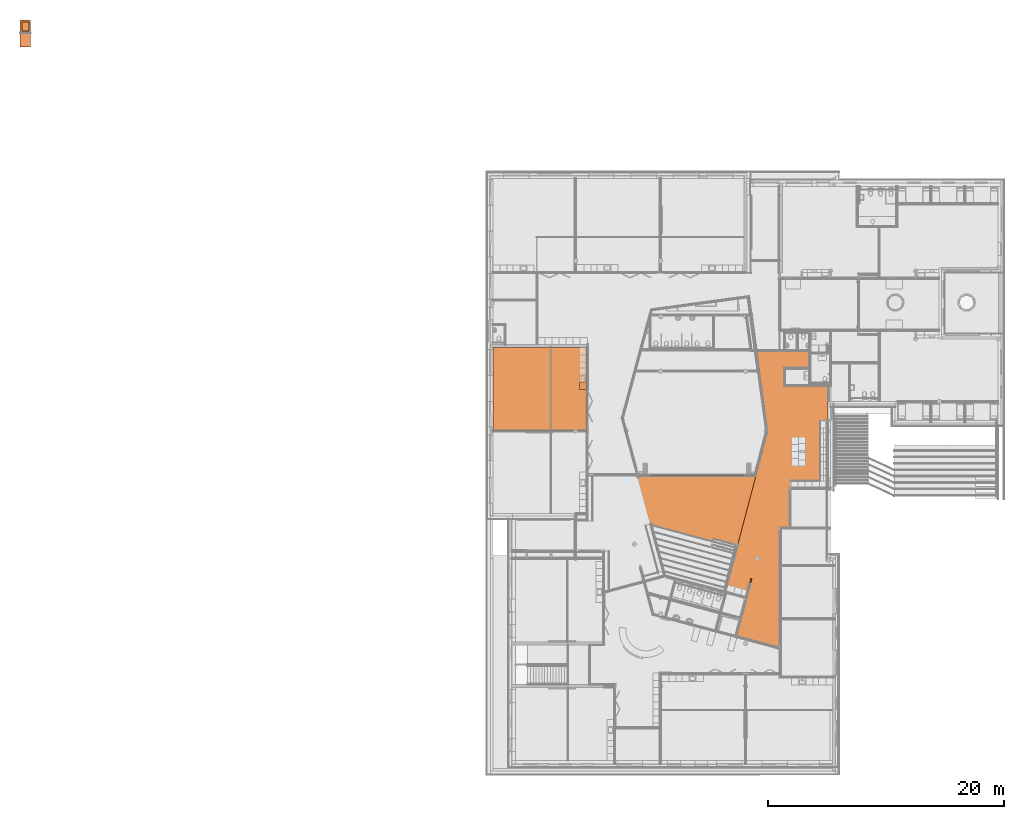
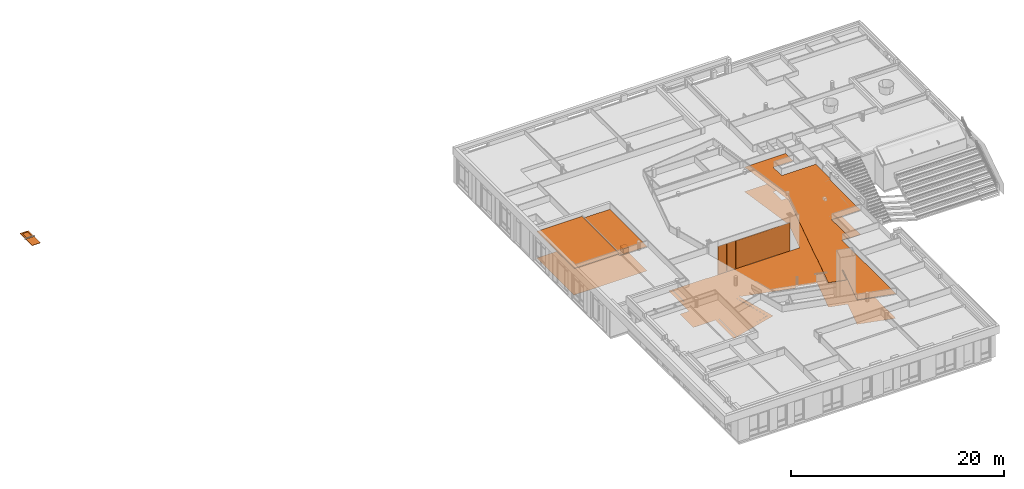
# One storey, part 126 of 167: 10 proxies, 1 opening.
"""IFC2X3 building model written with IfcOpenShell, lengths in millimetres."""

from ifc_helpers import new_model, entity, si_unit, converted_unit, derived_unit, money_unit, direction, frame, origin_with_axes, place, context, subcontext, project, spatial, open_shell, faceted_brep, surface_model, material, type_object, element, save


model = new_model("IFC2X3")

# Units and contexts
model_context = context("Model", 3, precision=0.01, world=origin_with_axes(), true_north=direction((0.0, 1.0)))
plan_context = context("Plan", 3, precision=0.01, world=origin_with_axes(), true_north=direction((0.0, 1.0)))
body_context = subcontext(model_context, "Body", "Model", "MODEL_VIEW")
ifc_project = project(units=[si_unit("LENGTHUNIT", "METRE", prefix="MILLI"), si_unit("AREAUNIT", "SQUARE_METRE"), si_unit("VOLUMEUNIT", "CUBIC_METRE"), converted_unit("PLANEANGLEUNIT", "DEGREE", entity("IfcPlaneAngleMeasure", 0.0174532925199), si_unit("PLANEANGLEUNIT", "RADIAN"), dimensions=[0, 0, 0, 0, 0, 0, 0]), si_unit("SOLIDANGLEUNIT", "STERADIAN"), money_unit("EUR"), converted_unit("TIMEUNIT", "Year", entity("IfcTimeMeasure", 31556926.0), si_unit("TIMEUNIT", "SECOND"), dimensions=[0, 0, 1, 0, 0, 0, 0]), si_unit("MASSUNIT", "GRAM", prefix="KILO"), si_unit("THERMODYNAMICTEMPERATUREUNIT", "DEGREE_CELSIUS"), si_unit("LUMINOUSINTENSITYUNIT", "LUMEN"), si_unit("ENERGYUNIT", "JOULE", prefix="MEGA"), derived_unit("THERMALCONDUCTANCEUNIT", [(si_unit("POWERUNIT", "WATT"), 1), (si_unit("LENGTHUNIT", "METRE"), -1), (si_unit("THERMODYNAMICTEMPERATUREUNIT", "KELVIN"), -1)]), derived_unit("SPECIFICHEATCAPACITYUNIT", [(si_unit("ENERGYUNIT", "JOULE"), 1), (si_unit("MASSUNIT", "GRAM", prefix="KILO"), -1), (si_unit("THERMODYNAMICTEMPERATUREUNIT", "KELVIN"), -1)]), derived_unit("MASSDENSITYUNIT", [(si_unit("MASSUNIT", "GRAM", prefix="KILO"), 1), (si_unit("VOLUMEUNIT", "CUBIC_METRE"), -1)])], contexts=[model_context, plan_context])

# Site, building, storey
site_placement = place(None, origin_with_axes())
site = spatial("IfcSite", under=ifc_project, at=site_placement, Name="Site", CompositionType="ELEMENT")
building_placement = place(site_placement, origin_with_axes())
building = spatial("IfcBuilding", under=site, at=building_placement, Name="Naam gebouw", CompositionType="ELEMENT")
storey_placement = place(building_placement, origin_with_axes())
storey = spatial("IfcBuildingStorey", under=building, at=storey_placement, Name="Begane grond", CompositionType="ELEMENT", Elevation=0.0)

# Proxies
building_element_proxy_type_1 = type_object("IfcBuildingElementProxyType", Name="Kast basis 1D 24", PredefinedType="NOTDEFINED")
proxy_1_placement = place(storey_placement, frame((7550.0, 32305.0, 0.0), z_axis=(0.0, 0.0, 1.0), x_axis=(0.0, -1.0, 0.0)))
element("IfcBuildingElementProxy", 1, at=proxy_1_placement, inside=storey, type_object=building_element_proxy_type_1, Name="__Object-x", context=body_context, shape_type="SurfaceModel", body=[
    faceted_brep([(-20.0, 20.0, 0.0), (-20.0, 20.0, 90.0), (-620.0, 20.0, 90.0), (-620.0, 20.0, 0.0), (-20.0, 600.0, 0.0), (-20.0, 600.0, 90.0), (-620.0, 600.0, 90.0), (-620.0, 600.0, 0.0)], [[[0, 1, 2, 3]], [[4, 5, 1, 0]], [[1, 5, 6, 2]], [[3, 2, 6, 7]], [[0, 3, 7, 4]], [[7, 6, 5, 4]]]),
    faceted_brep([(-20.0, 20.0, 580.0), (-20.0, 20.0, 600.0), (-40.0, 20.0, 600.0), (-40.0, 20.0, 580.0), (-20.0, 600.0, 580.0), (-20.0, 600.0, 600.0), (-40.0, 600.0, 600.0), (-600.0, 600.0, 600.0), (-620.0, 600.0, 600.0), (-620.0, 20.0, 600.0), (-600.0, 20.0, 600.0), (-600.0, 20.0, 580.0), (-620.0, 20.0, 580.0), (-620.0, 600.0, 580.0), (-600.0, 600.0, 580.0), (-40.0, 600.0, 580.0)], [[[0, 1, 2, 3]], [[4, 5, 1, 0]], [[1, 5, 6, 7, 8, 9, 10, 2]], [[3, 2, 10, 11]], [[0, 3, 11, 12, 13, 14, 15, 4]], [[15, 6, 5, 4]], [[14, 7, 6, 15]], [[13, 8, 7, 14]], [[12, 9, 8, 13]], [[11, 10, 9, 12]]]),
    faceted_brep([(-20.0, 20.0, 90.0), (-20.0, 20.0, 110.0), (-40.0, 20.0, 110.0), (-40.0, 20.0, 90.0), (-20.0, 600.0, 90.0), (-20.0, 600.0, 110.0), (-40.0, 600.0, 110.0), (-600.0, 600.0, 110.0), (-620.0, 600.0, 110.0), (-620.0, 20.0, 110.0), (-600.0, 20.0, 110.0), (-600.0, 20.0, 90.0), (-620.0, 20.0, 90.0), (-620.0, 600.0, 90.0), (-600.0, 600.0, 90.0), (-40.0, 600.0, 90.0)], [[[0, 1, 2, 3]], [[4, 5, 1, 0]], [[1, 5, 6, 7, 8, 9, 10, 2]], [[3, 2, 10, 11]], [[0, 3, 11, 12, 13, 14, 15, 4]], [[15, 6, 5, 4]], [[14, 7, 6, 15]], [[13, 8, 7, 14]], [[12, 9, 8, 13]], [[11, 10, 9, 12]]]),
    faceted_brep([(-20.0, 20.0, 110.0), (-20.0, 20.0, 580.0), (-40.0, 20.0, 580.0), (-40.0, 20.0, 110.0), (-20.0, 600.0, 110.0), (-20.0, 600.0, 580.0), (-620.0, 600.0, 580.0), (-620.0, 20.0, 580.0), (-600.0, 20.0, 580.0), (-600.0, 580.0, 580.0), (-40.0, 580.0, 580.0), (-40.0, 580.0, 110.0), (-600.0, 580.0, 110.0), (-600.0, 20.0, 110.0), (-620.0, 20.0, 110.0), (-620.0, 600.0, 110.0)], [[[0, 1, 2, 3]], [[4, 5, 1, 0]], [[1, 5, 6, 7, 8, 9, 10, 2]], [[3, 2, 10, 11]], [[0, 3, 11, 12, 13, 14, 15, 4]], [[15, 6, 5, 4]], [[14, 7, 6, 15]], [[13, 8, 7, 14]], [[12, 9, 8, 13]], [[11, 10, 9, 12]]]),
    faceted_brep([(-600.0, 20.0, 325.0), (-600.0, 20.0, 345.0), (-600.0, 580.0, 345.0), (-600.0, 580.0, 325.0), (-40.0, 20.0, 325.0), (-40.0, 20.0, 345.0), (-40.0, 580.0, 345.0), (-40.0, 580.0, 325.0)], [[[0, 1, 2, 3]], [[4, 5, 1, 0]], [[1, 5, 6, 2]], [[3, 2, 6, 7]], [[0, 3, 7, 4]], [[7, 6, 5, 4]]]),
    faceted_brep([(0.0, 0.0, 600.0), (0.0, 0.0, 620.0), (-620.0, 0.0, 620.0), (-620.0, 0.0, 600.0), (0.0, 600.0, 600.0), (0.0, 600.0, 620.0), (-620.0, 600.0, 620.0), (-620.0, 600.0, 600.0)], [[[0, 1, 2, 3]], [[4, 5, 1, 0]], [[1, 5, 6, 2]], [[3, 2, 6, 7]], [[0, 3, 7, 4]], [[7, 6, 5, 4]]]),
    faceted_brep([(-21.5, 20.0, 91.5), (-21.5, 0.0, 91.5), (-618.5, 0.0, 91.5), (-618.5, 20.0, 91.5), (-21.5, 20.0, 598.5), (-21.5, 0.0, 598.5), (-618.5, 0.0, 598.5), (-618.5, 20.0, 598.5)], [[[0, 1, 2, 3]], [[4, 5, 1, 0]], [[1, 5, 6, 2]], [[3, 2, 6, 7]], [[0, 3, 7, 4]], [[7, 6, 5, 4]]]),
    faceted_brep([(-318.5, -28.1480502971, 538.728361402), (-318.5, -27.0, 538.5), (-318.5, -25.8519497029, 538.728361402), (-318.5, -24.8786796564, 539.378679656), (-318.5, -24.2283614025, 540.351949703), (-318.5, -24.0, 541.5), (-318.5, -24.2283614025, 542.648050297), (-318.5, -24.8786796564, 543.621320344), (-318.5, -25.8519497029, 544.271638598), (-318.5, -27.0, 544.5), (-318.5, -28.1480502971, 544.271638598), (-318.5, -29.1213203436, 543.621320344), (-318.5, -29.7716385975, 542.648050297), (-318.5, -30.0, 541.5), (-318.5, -29.7716385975, 540.351949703), (-318.5, -29.1213203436, 539.378679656), (-568.5, -28.1480502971, 538.728361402), (-568.5, -27.0, 538.5), (-568.5, -25.8519497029, 538.728361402), (-568.5, -24.8786796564, 539.378679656), (-568.5, -24.2283614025, 540.351949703), (-568.5, -24.0, 541.5), (-568.5, -24.2283614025, 542.648050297), (-568.5, -24.8786796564, 543.621320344), (-568.5, -25.8519497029, 544.271638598), (-568.5, -27.0, 544.5), (-568.5, -28.1480502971, 544.271638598), (-568.5, -29.1213203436, 543.621320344), (-568.5, -29.7716385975, 542.648050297), (-568.5, -30.0, 541.5), (-568.5, -29.7716385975, 540.351949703), (-568.5, -29.1213203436, 539.378679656)], [[[0, 1, 2, 3, 4, 5, 6, 7, 8, 9, 10, 11, 12, 13, 14, 15]], [[0, 16, 17, 1]], [[1, 17, 18, 2]], [[2, 18, 19, 3]], [[3, 19, 20, 4]], [[4, 20, 21, 5]], [[5, 21, 22, 6]], [[6, 22, 23, 7]], [[7, 23, 24, 8]], [[8, 24, 25, 9]], [[9, 25, 26, 10]], [[10, 26, 27, 11]], [[11, 27, 28, 12]], [[12, 28, 29, 13]], [[13, 29, 30, 14]], [[14, 30, 31, 15]], [[15, 31, 16, 0]], [[16, 31, 30, 29, 28, 27, 26, 25, 24, 23, 22, 21, 20, 19, 18, 17]]]),
    surface_model("IfcShellBasedSurfaceModel", [(-341.190301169, -24.156637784, 540.543291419), (-341.190301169, 0.0, 540.543291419), (-341.0, 0.0, 541.5), (-341.0, -24.0, 541.5), (-341.732233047, -24.5761600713, 539.732233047), (-341.732233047, 0.0, 539.732233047), (-342.543291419, 0.0, 539.190301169), (-343.5, 0.0, 539.0), (-344.456708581, 0.0, 539.190301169), (-345.267766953, 0.0, 539.732233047), (-345.809698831, 0.0, 540.543291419), (-346.0, 0.0, 541.5), (-345.809698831, 0.0, 542.456708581), (-345.267766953, 0.0, 543.267766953), (-344.456708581, 0.0, 543.809698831), (-343.5, 0.0, 544.0), (-342.543291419, 0.0, 543.809698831), (-341.732233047, 0.0, 543.267766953), (-341.190301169, 0.0, 542.456708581), (-341.190301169, -24.156637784, 542.456708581), (-342.543291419, -25.0855049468, 539.190301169), (-343.5, -25.3416876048, 539.0), (-344.456708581, -25.0855049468, 539.190301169), (-345.267766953, -24.5761600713, 539.732233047), (-345.809698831, -24.156637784, 540.543291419), (-346.0, -24.0, 541.5), (-345.809698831, -24.156637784, 542.456708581), (-345.267766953, -24.5761600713, 543.267766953), (-344.456708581, -25.0855049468, 543.809698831), (-343.5, -25.3416876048, 544.0), (-342.543291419, -25.0855049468, 543.809698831), (-341.732233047, -24.5761600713, 543.267766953)], [open_shell([[[0, 1, 2, 3]], [[4, 5, 1, 0]], [[1, 5, 6, 7, 8, 9, 10, 11, 12, 13, 14, 15, 16, 17, 18, 2]], [[3, 2, 18, 19]], [[20, 6, 5, 4]], [[21, 7, 6, 20]], [[22, 8, 7, 21]], [[23, 9, 8, 22]], [[24, 10, 9, 23]], [[25, 11, 10, 24]], [[26, 12, 11, 25]], [[27, 13, 12, 26]], [[28, 14, 13, 27]], [[29, 15, 14, 28]], [[30, 16, 15, 29]], [[31, 17, 16, 30]], [[19, 18, 17, 31]]])]),
    surface_model("IfcShellBasedSurfaceModel", [(-541.190301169, -24.156637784, 540.543291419), (-541.190301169, 0.0, 540.543291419), (-541.0, 0.0, 541.5), (-541.0, -24.0, 541.5), (-541.732233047, -24.5761600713, 539.732233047), (-541.732233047, 0.0, 539.732233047), (-542.543291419, 0.0, 539.190301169), (-543.5, 0.0, 539.0), (-544.456708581, 0.0, 539.190301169), (-545.267766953, 0.0, 539.732233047), (-545.809698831, 0.0, 540.543291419), (-546.0, 0.0, 541.5), (-545.809698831, 0.0, 542.456708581), (-545.267766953, 0.0, 543.267766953), (-544.456708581, 0.0, 543.809698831), (-543.5, 0.0, 544.0), (-542.543291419, 0.0, 543.809698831), (-541.732233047, 0.0, 543.267766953), (-541.190301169, 0.0, 542.456708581), (-541.190301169, -24.156637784, 542.456708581), (-542.543291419, -25.0855049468, 539.190301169), (-543.5, -25.3416876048, 539.0), (-544.456708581, -25.0855049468, 539.190301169), (-545.267766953, -24.5761600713, 539.732233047), (-545.809698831, -24.156637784, 540.543291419), (-546.0, -24.0, 541.5), (-545.809698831, -24.156637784, 542.456708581), (-545.267766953, -24.5761600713, 543.267766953), (-544.456708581, -25.0855049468, 543.809698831), (-543.5, -25.3416876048, 544.0), (-542.543291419, -25.0855049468, 543.809698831), (-541.732233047, -24.5761600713, 543.267766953)], [open_shell([[[0, 1, 2, 3]], [[4, 5, 1, 0]], [[1, 5, 6, 7, 8, 9, 10, 11, 12, 13, 14, 15, 16, 17, 18, 2]], [[3, 2, 18, 19]], [[20, 6, 5, 4]], [[21, 7, 6, 20]], [[22, 8, 7, 21]], [[23, 9, 8, 22]], [[24, 10, 9, 23]], [[25, 11, 10, 24]], [[26, 12, 11, 25]], [[27, 13, 12, 26]], [[28, 14, 13, 27]], [[29, 15, 14, 28]], [[30, 16, 15, 29]], [[31, 17, 16, 30]], [[19, 18, 17, 31]]])]),
    faceted_brep([(-20.0, 598.5, 91.5), (0.0, 598.5, 91.5), (0.0, 21.5, 91.5), (-20.0, 21.5, 91.5), (-20.0, 598.5, 598.5), (0.0, 598.5, 598.5), (0.0, 21.5, 598.5), (-20.0, 21.5, 598.5)], [[[0, 1, 2, 3]], [[4, 5, 1, 0]], [[1, 5, 6, 2]], [[3, 2, 6, 7]], [[0, 3, 7, 4]], [[7, 6, 5, 4]]]),
])
ifc_material_1 = material(Name="ALG - BINNENAFWERKING")
building_element_proxy_type_2 = type_object("IfcBuildingElementProxyType", Name="ALG - BINNENAFWERKING 10", PredefinedType="NOTDEFINED")
proxy_2_placement = place(storey_placement, frame((3949.99987958, 35875.0, 3050.0), z_axis=(0.0, 0.0, 1.0), x_axis=(1.0, 0.0, 0.0)))
element("IfcBuildingElementProxy", 2, at=proxy_2_placement, inside=storey, type_object=building_element_proxy_type_2, material=ifc_material_1, Name="23__Vloer-x", context=body_context, shape_type="Brep", body=[
    faceted_brep([(-3735.99987958, 0.0, 10.0), (-3735.99987958, 0.0, 0.0), (-3735.99987958, -7024.99994868, 0.0), (-3735.99987958, -7024.99994868, 10.0), (1175.00024697, 0.0, 10.0), (1175.00024697, 0.0, 0.0), (1175.00024697, -7024.99994868, 0.0), (1175.00024697, -7024.99994868, 10.0)], [[[0, 1, 2, 3]], [[4, 5, 1, 0]], [[1, 5, 6, 2]], [[3, 2, 6, 7]], [[4, 0, 3, 7]], [[7, 6, 5, 4]]]),
])
proxy_3_placement = place(storey_placement, frame((5125.0, 35875.0, 2800.0), z_axis=(0.0, 0.0, 1.0), x_axis=(1.0, 0.0, 0.0)))
element("IfcBuildingElementProxy", 3, at=proxy_3_placement, inside=storey, type_object=building_element_proxy_type_2, material=ifc_material_1, Name="23__Vloer-x", context=body_context, shape_type="Brep", body=[
    faceted_brep([(0.0, 0.0, 10.0), (0.0, 0.0, 0.0), (0.0, -7025.0, 0.0), (0.0, -7025.0, 10.0), (3025.0, 0.0, 10.0), (3025.0, 0.0, 0.0), (3025.0, -7025.0, 0.0), (3025.0, -7025.0, 10.0)], [[[0, 1, 2, 3]], [[4, 5, 1, 0]], [[2, 1, 5, 6]], [[3, 2, 6, 7]], [[4, 0, 3, 7]], [[7, 6, 5, 4]]]),
])
proxy_4_placement = place(storey_placement, frame((23462.5635494, 28742.8363198, 2800.0), z_axis=(0.0, 0.0, 1.0), x_axis=(1.0, 0.0, 0.0)))
element("IfcBuildingElementProxy", 4, at=proxy_4_placement, inside=storey, type_object=building_element_proxy_type_2, material=ifc_material_1, Name="23__Vloer-x", context=body_context, shape_type="Brep", body=[
    faceted_brep([(5123.43645062, 732.163899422, 0.0), (5123.43645339, 886.733454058, 0.0), (5123.4364534, 886.733454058, 10.0), (5123.43645062, 732.163899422, 10.0), (5112.43645062, 732.163899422, 0.0), (5112.43645062, 886.733454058, 0.0), (5112.43645062, 886.733454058, 10.0), (5112.43645062, 732.163899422, 10.0)], [[[0, 1, 2, 3]], [[4, 5, 1, 0]], [[5, 6, 2, 1]], [[3, 2, 6, 7]], [[3, 7, 4, 0]], [[7, 6, 5, 4]]]),
    faceted_brep([(5123.43645345, 986.733454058, 10.0), (5123.43645062, 2557.16345406, 10.0), (5123.43645062, 3843.51654649, 10.0), (1412.43651779, 3843.51654649, 10.0), (1412.43651779, 5393.51654193, 10.0), (3537.43646385, 5393.51654193, 10.0), (3537.43646385, 6793.51682266, 10.0), (-911.85473767, 6793.51677353, 10.0), (-691.940329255, 5169.79571058, 10.0), (-703.301805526, 5168.25692883, 10.0), (0.0, 0.0, 10.0), (-2519.65742913, -9539.00468559, 10.0), (-2489.43849134, -9547.10182556, 10.0), (-3562.67765505, -13552.4849132, 10.0), (-1846.43747417, -14016.0200186, 10.0), (-1420.23849804, -12425.4237855, 10.0), (-1323.64591541, -12451.30569, 10.0), (-1749.89650966, -14042.0945311, 10.0), (-1746.43039059, -14043.0306867, 10.0), (-2215.90407638, -15781.2584802, 10.0), (-2630.00848064, -17326.7171566, 10.0), (1037.43645062, -18309.4060642, 10.0), (1037.43645062, -8142.83631976, 10.0), (1871.87876454, -8142.83631976, 10.0), (1871.87876454, -4763.60403162, 10.0), (5012.43645062, -4763.60403162, 10.0), (5012.43645062, 732.163899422, 10.0), (5012.43645062, 986.733454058, 10.0), (5024.93645062, 986.733454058, 10.0), (5123.43645344, 986.733454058, 0.0), (5123.43645062, 2557.16345406, 0.0), (5123.43645062, 3843.51654649, 0.0), (1412.43651779, 3843.51654649, 0.0), (1412.43651779, 5393.51654193, 0.0), (3537.43646385, 5393.51654193, 0.0), (3537.43646385, 6793.51682266, 0.0), (-911.85473767, 6793.51677353, 0.0), (-691.940329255, 5169.79571058, 0.0), (-703.301805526, 5168.25692883, 0.0), (0.0, 0.0, 0.0), (-2519.65742913, -9539.00468559, 0.0), (-2489.43849134, -9547.10182556, 0.0), (-3562.67765505, -13552.4849132, 0.0), (-1846.43747417, -14016.0200186, 0.0), (-1420.23849804, -12425.4237855, 0.0), (-1323.64591541, -12451.30569, 0.0), (-1749.89650966, -14042.0945311, 0.0), (-1746.43039059, -14043.0306867, 0.0), (-2215.90407638, -15781.2584802, 0.0), (-2630.00848064, -17326.7171566, 0.0), (1037.43645062, -18309.4060642, 0.0), (1037.43645062, -8142.83631976, 0.0), (1871.87876454, -8142.83631976, 0.0), (1871.87876454, -4763.60403162, 0.0), (5012.43645062, -4763.60403162, 0.0), (5012.43645062, 732.163899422, 0.0), (5012.43645062, 986.733454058, 0.0), (5024.93645062, 986.733454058, 0.0)], [[[0, 1, 2, 3, 4, 5, 6, 7, 8, 9, 10, 11, 12, 13, 14, 15, 16, 17, 18, 19, 20, 21, 22, 23, 24, 25, 26, 27, 28]], [[29, 30, 1, 0]], [[30, 31, 2, 1]], [[3, 2, 31, 32]], [[4, 3, 32, 33]], [[5, 4, 33, 34]], [[6, 5, 34, 35]], [[35, 36, 7, 6]], [[37, 8, 7, 36]], [[38, 9, 8, 37]], [[10, 9, 38, 39]], [[39, 40, 11, 10]], [[40, 41, 12, 11]], [[42, 13, 12, 41]], [[42, 43, 14, 13]], [[44, 15, 14, 43]], [[45, 16, 15, 44]], [[46, 17, 16, 45]], [[18, 17, 46, 47]], [[19, 18, 47, 48]], [[20, 19, 48, 49]], [[21, 20, 49, 50]], [[22, 21, 50, 51]], [[23, 22, 51, 52]], [[24, 23, 52, 53]], [[25, 24, 53, 54]], [[54, 55, 26, 25]], [[56, 27, 26, 55]], [[56, 57, 28, 27]], [[57, 29, 0, 28]], [[32, 31, 30, 29, 57, 56, 55, 54, 53, 52, 51, 50, 49, 48, 47, 46, 45, 44, 43, 42, 41, 40, 39, 38, 37, 36, 35, 34, 33]]]),
])
ifc_material_2 = material(Name="Kunststof - massief")
building_element_proxy_type_3 = type_object("IfcBuildingElementProxyType", Name="Vouwwand 24", PredefinedType="NOTDEFINED")
proxy_5_placement = place(storey_placement, frame((13564.462989, 25025.0, 2.0), z_axis=(0.0, 0.0, 1.0), x_axis=(1.0, 0.0, 0.0)))
element("IfcBuildingElementProxy", 5, at=proxy_5_placement, inside=storey, type_object=building_element_proxy_type_3, material=ifc_material_2, Name="__object-x", context=body_context, shape_type="Brep", body=[
    faceted_brep([(7839.67482976, -30.0, 3200.0), (0.0, -30.0, 3200.0), (0.0, 30.0, 3200.0), (7839.67482976, 30.0, 3200.0), (7839.67482976, -30.0, 3230.0), (0.0, -30.0, 3230.0), (0.0, 30.0, 3230.0), (7839.67482976, 30.0, 3230.0)], [[[0, 1, 2, 3]], [[1, 0, 4, 5]], [[2, 1, 5, 6]], [[3, 2, 6, 7]], [[0, 3, 7, 4]], [[5, 4, 7, 6]]]),
    faceted_brep([(969.95935372, -40.0, 0.0), (0.0, -40.0, 0.0), (0.0, 40.0, 0.0), (969.95935372, 40.0, 0.0), (969.95935372, -40.0, 3200.0), (0.0, -40.0, 3200.0), (0.0, 40.0, 3200.0), (969.95935372, 40.0, 3200.0)], [[[0, 1, 2, 3]], [[1, 0, 4, 5]], [[2, 1, 5, 6]], [[3, 2, 6, 7]], [[0, 3, 7, 4]], [[5, 4, 7, 6]]]),
    faceted_brep([(1949.91870744, -40.0, 0.0), (979.95935372, -40.0, 0.0), (979.95935372, 40.0, 0.0), (1949.91870744, 40.0, 0.0), (1949.91870744, -40.0, 3200.0), (979.95935372, -40.0, 3200.0), (979.95935372, 40.0, 3200.0), (1949.91870744, 40.0, 3200.0)], [[[0, 1, 2, 3]], [[1, 0, 4, 5]], [[2, 1, 5, 6]], [[3, 2, 6, 7]], [[0, 3, 7, 4]], [[5, 4, 7, 6]]]),
    faceted_brep([(2929.87806116, -40.0, 0.0), (1959.91870744, -40.0, 0.0), (1959.91870744, 40.0, 0.0), (2929.87806116, 40.0, 0.0), (2929.87806116, -40.0, 3200.0), (1959.91870744, -40.0, 3200.0), (1959.91870744, 40.0, 3200.0), (2929.87806116, 40.0, 3200.0)], [[[0, 1, 2, 3]], [[1, 0, 4, 5]], [[2, 1, 5, 6]], [[3, 2, 6, 7]], [[0, 3, 7, 4]], [[5, 4, 7, 6]]]),
    faceted_brep([(3909.83741488, -40.0, 0.0), (2939.87806116, -40.0, 0.0), (2939.87806116, 40.0, 0.0), (3909.83741488, 40.0, 0.0), (3909.83741488, -40.0, 3200.0), (2939.87806116, -40.0, 3200.0), (2939.87806116, 40.0, 3200.0), (3909.83741488, 40.0, 3200.0)], [[[0, 1, 2, 3]], [[1, 0, 4, 5]], [[2, 1, 5, 6]], [[3, 2, 6, 7]], [[0, 3, 7, 4]], [[5, 4, 7, 6]]]),
    faceted_brep([(4889.7967686, -40.0, 0.0), (3919.83741488, -40.0, 0.0), (3919.83741488, 40.0, 0.0), (4889.7967686, 40.0, 0.0), (4889.7967686, -40.0, 3200.0), (3919.83741488, -40.0, 3200.0), (3919.83741488, 40.0, 3200.0), (4889.7967686, 40.0, 3200.0)], [[[0, 1, 2, 3]], [[1, 0, 4, 5]], [[2, 1, 5, 6]], [[3, 2, 6, 7]], [[0, 3, 7, 4]], [[5, 4, 7, 6]]]),
    faceted_brep([(5869.75612232, -40.0, 0.0), (4899.7967686, -40.0, 0.0), (4899.7967686, 40.0, 0.0), (5869.75612232, 40.0, 0.0), (5869.75612232, -40.0, 3200.0), (4899.7967686, -40.0, 3200.0), (4899.7967686, 40.0, 3200.0), (5869.75612232, 40.0, 3200.0)], [[[0, 1, 2, 3]], [[1, 0, 4, 5]], [[2, 1, 5, 6]], [[3, 2, 6, 7]], [[0, 3, 7, 4]], [[5, 4, 7, 6]]]),
    faceted_brep([(6849.71547604, -40.0, 0.0), (5879.75612232, -40.0, 0.0), (5879.75612232, 40.0, 0.0), (6849.71547604, 40.0, 0.0), (6849.71547604, -40.0, 3200.0), (5879.75612232, -40.0, 3200.0), (5879.75612232, 40.0, 3200.0), (6849.71547604, 40.0, 3200.0)], [[[0, 1, 2, 3]], [[1, 0, 4, 5]], [[2, 1, 5, 6]], [[3, 2, 6, 7]], [[0, 3, 7, 4]], [[5, 4, 7, 6]]]),
    faceted_brep([(7829.67482976, -40.0, 0.0), (6859.71547604, -40.0, 0.0), (6859.71547604, 40.0, 0.0), (7829.67482976, 40.0, 0.0), (7829.67482976, -40.0, 3200.0), (6859.71547604, -40.0, 3200.0), (6859.71547604, 40.0, 3200.0), (7829.67482976, 40.0, 3200.0)], [[[0, 1, 2, 3]], [[1, 0, 4, 5]], [[2, 1, 5, 6]], [[3, 2, 6, 7]], [[0, 3, 7, 4]], [[5, 4, 7, 6]]]),
])
ifc_material_3 = material(Name="_TenW_43_Marmoleum Salsa Verde")
building_element_proxy_type_4 = type_object("IfcBuildingElementProxyType", Name="_TenW_43_Marmoleum Salsa Verde 2", PredefinedType="NOTDEFINED")
proxy_6_placement = place(storey_placement, frame((214.0, 28850.0, 0.0), z_axis=(0.0, 0.0, 1.0), x_axis=(1.0, 0.0, 0.0)))
element("IfcBuildingElementProxy", 6, at=proxy_6_placement, inside=storey, type_object=building_element_proxy_type_4, material=ifc_material_3, Name="23__Vloer-x", context=body_context, shape_type="Brep", body=[
    faceted_brep([(0.0, 0.0, 2.0), (0.0, 0.0, 0.0), (7936.0, 0.0, 0.0), (7936.0, 0.0, 2.0), (0.0, 7025.0, 2.0), (0.0, 7025.0, 0.0), (7936.0, 7025.0, 0.0), (7936.0, 7025.0, 2.0)], [[[0, 1, 2, 3]], [[4, 5, 1, 0]], [[2, 1, 5, 6]], [[3, 2, 6, 7]], [[4, 0, 3, 7]], [[7, 6, 5, 4]]]),
])
proxy_7_placement = place(storey_placement, frame((9650.0, 15186.3631112, 0.0), z_axis=(0.0, 0.0, 1.0), x_axis=(1.0, 0.0, 0.0)))
element("IfcBuildingElementProxy", 7, at=proxy_7_placement, inside=storey, type_object=building_element_proxy_type_4, material=ifc_material_3, Name="23__Vloer-x", context=body_context, shape_type="Brep", body=[
    faceted_brep([(15684.4423139, 8565.4233889, 2.0), (15664.4423139, 8565.4233889, 2.0), (15664.4423139, 8780.36917697, 2.0), (15684.4423139, 8780.36917697, 2.0), (15684.4423139, 8792.86917697, 2.0), (18825.0, 8792.86917697, 2.0), (18825.0, 14543.2066626, 2.0), (18837.5, 14543.2066626, 2.0), (18936.0, 14543.2066626, 2.0), (18936.0, 15626.4216626, 2.0), (18936.0, 17399.9897551, 2.0), (15225.00004, 17399.9897551, 2.0), (15225.00004, 18949.9897505, 2.0), (17350.0000132, 18949.9897505, 2.0), (17350.0000145, 20335.9900723, 2.0), (12888.0946853, 20349.9899819, 2.0), (13800.8887556, 13610.4454067, 2.0), (12784.6755792, 9788.63688882, 2.0), (2802.75821805, 9788.63688882, 2.0), (2790.28632, 9835.18264599, 2.0), (-1400.0, 9835.18264599, 2.0), (-1400.0, 6013.63688882, 2.0), (-1400.73916516, 6013.63688882, 2.0), (-1400.74303357, 5993.63688882, 2.0), (-2383.51460912, 5993.63688882, 2.0), (-2385.98035264, 3483.63688882, 2.0), (-2140.91995261, 3483.63688882, 2.0), (-2140.91995261, 3463.63688882, 2.0), (-309.919952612, 3463.63688882, 2.0), (-309.919952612, 3483.63688882, 2.0), (0.0, 3483.63688882, 2.0), (0.0, 3463.63688882, 2.0), (0.0, 0.0, 2.0), (398.393954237, 107.179676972, 2.0), (380.0, 107.179676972, 2.0), (380.0, 3443.63688882, 2.0), (400.0, 3443.63688882, 2.0), (400.0, 107.611750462, 2.0), (5060.8015911, 1361.5042949, 2.0), (3894.10828004, 5715.66300862, 2.0), (3990.70086267, 5741.54491313, 2.0), (4037.93796014, 5613.62249018, 2.0), (9181.55305804, 4235.39497852, 2.0), (9246.25781931, 4476.87643509, 2.0), (11204.2850136, 3952.22462963, 2.0), (11226.5324754, 4035.25328753, 2.0), (11323.125058, 4009.37138302, 2.0), (11300.8775962, 3926.34272512, 2.0), (10248.7881657, -0.108483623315, 2.0), (12062.5384129, -486.10139764, 2.0), (11182.5550687, -3770.24394799, 2.0), (14830.0, -4747.57387175, 2.0), (14830.0, -4611.36311118, 2.0), (14850.0, -4611.36311118, 2.0), (14850.0, -3011.36311118, 2.0), (14830.0, -3011.36311118, 2.0), (14830.0, -1521.6977063, 2.0), (14850.0, -1521.6977063, 2.0), (14850.0, 1478.3022937, 2.0), (14830.0, 1478.3022937, 2.0), (14830.0, 2968.80418638, 2.0), (14850.0, 2968.80418638, 2.0), (14850.0, 5268.80418638, 2.0), (14830.0, 5268.80418638, 2.0), (14830.0, 5413.63688882, 2.0), (14850.0, 5413.63688882, 2.0), (15684.4423139, 5413.63688882, 2.0), (-1000.0, 6016.13688882, 2.0), (-1020.0, 6016.13688882, 2.0), (-1020.0, 9815.18264599, 2.0), (-1000.0, 9815.18264599, 2.0), (4545.47181839, 1658.23809424, 2.0), (3492.65888717, 5587.38944439, 2.0), (3511.9774037, 5592.56582529, 2.0), (4564.79033491, 1663.41447514, 2.0), (3222.84693991, 1262.43077894, 2.0), (3217.67055901, 1281.74929547, 2.0), (4531.32968276, 1633.74319681, 2.0), (4536.50606366, 1614.42468028, 2.0), (15664.4423139, 8565.4233889, 0.0), (15684.4423139, 8565.4233889, 0.0), (15664.4423139, 8780.36917697, 0.0), (15684.4423139, 8780.36917697, 0.0), (15684.4423139, 8792.86917697, 0.0), (18825.0, 8792.86917697, 0.0), (18825.0, 14543.2066626, 0.0), (18837.5, 14543.2066626, 0.0), (18936.0, 14543.2066626, 0.0), (18936.0, 15626.4216626, 0.0), (18936.0, 17399.9897551, 0.0), (15225.00004, 17399.9897551, 0.0), (15225.00004, 18949.9897505, 0.0), (17350.0000132, 18949.9897505, 0.0), (17350.0000145, 20335.9900723, 0.0), (12888.0946853, 20349.9899819, 0.0), (13800.8887556, 13610.4454067, 0.0), (12784.6755792, 9788.63688882, 0.0), (2802.75821805, 9788.63688882, 0.0), (2790.28632, 9835.18264599, 0.0), (-1400.0, 9835.18264599, 0.0), (-1400.0, 6013.63688882, 0.0), (-1400.73916516, 6013.63688882, 0.0), (-1400.74303357, 5993.63688882, 0.0), (-2383.51460912, 5993.63688882, 0.0), (-2385.98035264, 3483.63688882, 0.0), (-2140.91995261, 3483.63688882, 0.0), (-2140.91995261, 3463.63688882, 0.0), (-309.919952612, 3463.63688882, 0.0), (-309.919952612, 3483.63688882, 0.0), (0.0, 3483.63688882, 0.0), (0.0, 3463.63688882, 0.0), (0.0, 0.0, 0.0), (398.393954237, 107.179676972, 0.0), (380.0, 107.179676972, 0.0), (380.0, 3443.63688882, 0.0), (400.0, 3443.63688882, 0.0), (400.0, 107.611750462, 0.0), (5060.8015911, 1361.5042949, 0.0), (3894.10828004, 5715.66300862, 0.0), (3990.70086267, 5741.54491313, 0.0), (4037.93796014, 5613.62249018, 0.0), (9181.55305804, 4235.39497852, 0.0), (9246.25781931, 4476.87643509, 0.0), (11204.2850136, 3952.22462963, 0.0), (11226.5324754, 4035.25328753, 0.0), (11323.125058, 4009.37138302, 0.0), (11300.8775962, 3926.34272512, 0.0), (10248.7881657, -0.108483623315, 0.0), (12062.5384129, -486.10139764, 0.0), (11182.5550687, -3770.24394799, 0.0), (14830.0, -4747.57387175, 0.0), (14830.0, -4611.36311118, 0.0), (14850.0, -4611.36311118, 0.0), (14850.0, -3011.36311118, 0.0), (14830.0, -3011.36311118, 0.0), (14830.0, -1521.6977063, 0.0), (14850.0, -1521.6977063, 0.0), (14850.0, 1478.3022937, 0.0), (14830.0, 1478.3022937, 0.0), (14830.0, 2968.80418638, 0.0), (14850.0, 2968.80418638, 0.0), (14850.0, 5268.80418638, 0.0), (14830.0, 5268.80418638, 0.0), (14830.0, 5413.63688882, 0.0), (14850.0, 5413.63688882, 0.0), (15684.4423139, 5413.63688882, 0.0), (-1020.0, 6016.13688882, 0.0), (-1000.0, 6016.13688882, 0.0), (-1020.0, 9815.18264599, 0.0), (-1000.0, 9815.18264599, 0.0), (3492.65888717, 5587.38944439, 0.0), (4545.47181839, 1658.23809424, 0.0), (3511.9774037, 5592.56582529, 0.0), (4564.79033491, 1663.41447514, 0.0), (3217.67055901, 1281.74929547, 0.0), (3222.84693991, 1262.43077894, 0.0), (4531.32968276, 1633.74319681, 0.0), (4536.50606366, 1614.42468028, 0.0)], [[[0, 1, 2, 3, 4, 5, 6, 7, 8, 9, 10, 11, 12, 13, 14, 15, 16, 17, 18, 19, 20, 21, 22, 23, 24, 25, 26, 27, 28, 29, 30, 31, 32, 33, 34, 35, 36, 37, 38, 39, 40, 41, 42, 43, 44, 45, 46, 47, 48, 49, 50, 51, 52, 53, 54, 55, 56, 57, 58, 59, 60, 61, 62, 63, 64, 65, 66], [67, 68, 69, 70], [71, 72, 73, 74], [75, 76, 77, 78]], [[79, 1, 0, 80]], [[81, 2, 1, 79]], [[81, 82, 3, 2]], [[4, 3, 82, 83]], [[5, 4, 83, 84]], [[84, 85, 6, 5]], [[85, 86, 7, 6]], [[86, 87, 8, 7]], [[9, 8, 87, 88]], [[10, 9, 88, 89]], [[11, 10, 89, 90]], [[12, 11, 90, 91]], [[13, 12, 91, 92]], [[14, 13, 92, 93]], [[15, 14, 93, 94]], [[16, 15, 94, 95]], [[17, 16, 95, 96]], [[18, 17, 96, 97]], [[19, 18, 97, 98]], [[98, 99, 20, 19]], [[100, 21, 20, 99]], [[101, 22, 21, 100]], [[23, 22, 101, 102]], [[24, 23, 102, 103]], [[103, 104, 25, 24]], [[105, 26, 25, 104]], [[106, 27, 26, 105]], [[106, 107, 28, 27]], [[108, 29, 28, 107]], [[109, 30, 29, 108]], [[110, 31, 30, 109]], [[32, 31, 110, 111]], [[111, 112, 33, 32]], [[113, 34, 33, 112]], [[114, 35, 34, 113]], [[115, 36, 35, 114]], [[116, 37, 36, 115]], [[38, 37, 116, 117]], [[39, 38, 117, 118]], [[40, 39, 118, 119]], [[41, 40, 119, 120]], [[42, 41, 120, 121]], [[43, 42, 121, 122]], [[122, 123, 44, 43]], [[124, 45, 44, 123]], [[125, 46, 45, 124]], [[126, 47, 46, 125]], [[48, 47, 126, 127]], [[49, 48, 127, 128]], [[50, 49, 128, 129]], [[129, 130, 51, 50]], [[131, 52, 51, 130]], [[131, 132, 53, 52]], [[132, 133, 54, 53]], [[134, 55, 54, 133]], [[135, 56, 55, 134]], [[135, 136, 57, 56]], [[136, 137, 58, 57]], [[138, 59, 58, 137]], [[139, 60, 59, 138]], [[139, 140, 61, 60]], [[140, 141, 62, 61]], [[142, 63, 62, 141]], [[143, 64, 63, 142]], [[143, 144, 65, 64]], [[66, 65, 144, 145]], [[145, 80, 0, 66]], [[146, 68, 67, 147]], [[148, 69, 68, 146]], [[149, 70, 69, 148]], [[147, 67, 70, 149]], [[150, 72, 71, 151]], [[152, 73, 72, 150]], [[153, 74, 73, 152]], [[151, 71, 74, 153]], [[154, 76, 75, 155]], [[156, 77, 76, 154]], [[157, 78, 77, 156]], [[155, 75, 78, 157]], [[81, 79, 80, 145, 144, 143, 142, 141, 140, 139, 138, 137, 136, 135, 134, 133, 132, 131, 130, 129, 128, 127, 126, 125, 124, 123, 122, 121, 120, 119, 118, 117, 116, 115, 114, 113, 112, 111, 110, 109, 108, 107, 106, 105, 104, 103, 102, 101, 100, 99, 98, 97, 96, 95, 94, 93, 92, 91, 90, 89, 88, 87, 86, 85, 84, 83, 82], [148, 146, 147, 149], [152, 150, 151, 153], [156, 154, 155, 157]]]),
])

# Proxy, opening
ifc_material_4 = material(Name="_TenW_24_Hout - Multiplex")
building_element_proxy_type_5 = type_object("IfcBuildingElementProxyType", Name="_TenW_24_Hout - Multiplex 40", PredefinedType="NOTDEFINED")
proxy_8_placement = place(storey_placement, frame((-39825.2123587, 62491.8430975, 0.0), z_axis=(0.0, 0.0, 1.0), x_axis=(1.0, 0.0, 0.0)))
proxy_8 = element("IfcBuildingElementProxy", 8, at=proxy_8_placement, inside=storey, type_object=building_element_proxy_type_5, material=ifc_material_4, Name="23__Vloer-x", context=body_context, shape_type="Brep", body=[
    faceted_brep([(0.0, 0.0, 40.0), (0.0, 0.0, 0.0), (900.0, 0.0, 0.0), (900.0, 0.0, 40.0), (0.0, 1095.0, 40.0), (0.0, 1095.0, 0.0), (900.0, 1095.0, 0.0), (150.0, 945.0, 0.0), (150.0, 145.0, 0.0), (750.0, 145.0, 0.0), (750.0, 945.0, 0.0), (900.0, 1095.0, 40.0), (750.0, 145.0, 40.0), (150.0, 145.0, 40.0), (150.0, 945.0, 40.0), (750.0, 945.0, 40.0)], [[[0, 1, 2, 3]], [[4, 5, 1, 0]], [[2, 1, 5, 6], [7, 8, 9, 10]], [[3, 2, 6, 11]], [[4, 0, 3, 11], [12, 13, 14, 15]], [[11, 6, 5, 4]], [[13, 8, 7, 14]], [[12, 9, 8, 13]], [[15, 10, 9, 12]], [[14, 7, 10, 15]]]),
])
opening_placement = place(proxy_8_placement, origin_with_axes())
element("IfcOpeningElement", 9, at=opening_placement, cuts=proxy_8, Name="Slab Opening", context=body_context, shape_type="Brep", body=[
    faceted_brep([(150.0, 145.0, 0.0), (150.0, 945.0, 0.0), (750.0, 945.0, 0.0), (750.0, 145.0, 0.0), (150.0, 145.0, 40.0), (150.0, 945.0, 40.0), (750.0, 945.0, 40.0), (750.0, 145.0, 40.0)], [[[0, 1, 2, 3]], [[4, 5, 1, 0]], [[5, 6, 2, 1]], [[6, 7, 3, 2]], [[7, 4, 0, 3]], [[4, 7, 6, 5]]]),
])

# Proxies
proxy_9_placement = place(storey_placement, frame((-39825.2123587, 61286.8430975, 0.0), z_axis=(0.0, 0.0, 1.0), x_axis=(1.0, 0.0, 0.0)))
element("IfcBuildingElementProxy", 10, at=proxy_9_placement, inside=storey, type_object=building_element_proxy_type_5, material=ifc_material_4, Name="23__Vloer-x", context=body_context, shape_type="Brep", body=[
    faceted_brep([(0.0, 0.0, 40.0), (0.0, 0.0, 0.0), (900.0, 0.0, 0.0), (900.0, 0.0, 40.0), (0.0, 1200.0, 40.0), (0.0, 1200.0, 0.0), (900.0, 1200.0, 0.0), (900.0, 1200.0, 40.0)], [[[0, 1, 2, 3]], [[4, 5, 1, 0]], [[2, 1, 5, 6]], [[3, 2, 6, 7]], [[4, 0, 3, 7]], [[7, 6, 5, 4]]]),
])
ifc_material_5 = material(Name="Glas")
building_element_proxy_type_6 = type_object("IfcBuildingElementProxyType", Name="Glas 20", PredefinedType="NOTDEFINED")
proxy_10_placement = place(storey_placement, frame((-39675.2123587, 62636.8430975, 10.0), z_axis=(0.0, 0.0, 1.0), x_axis=(1.0, 0.0, 0.0)))
element("IfcBuildingElementProxy", 11, at=proxy_10_placement, inside=storey, type_object=building_element_proxy_type_6, material=ifc_material_5, Name="23__Vloer-x", context=body_context, shape_type="Brep", body=[
    faceted_brep([(0.0, 0.0, 0.0), (600.0, 0.0, 0.0), (600.0, 0.0, 20.0), (0.0, 0.0, 20.0), (0.0, 800.0, 0.0), (600.0, 800.0, 0.0), (600.0, 800.0, 20.0), (0.0, 800.0, 20.0)], [[[0, 1, 2, 3]], [[0, 4, 5, 1]], [[1, 5, 6, 2]], [[3, 2, 6, 7]], [[4, 0, 3, 7]], [[5, 4, 7, 6]]]),
])

save(model, "model.ifc")
